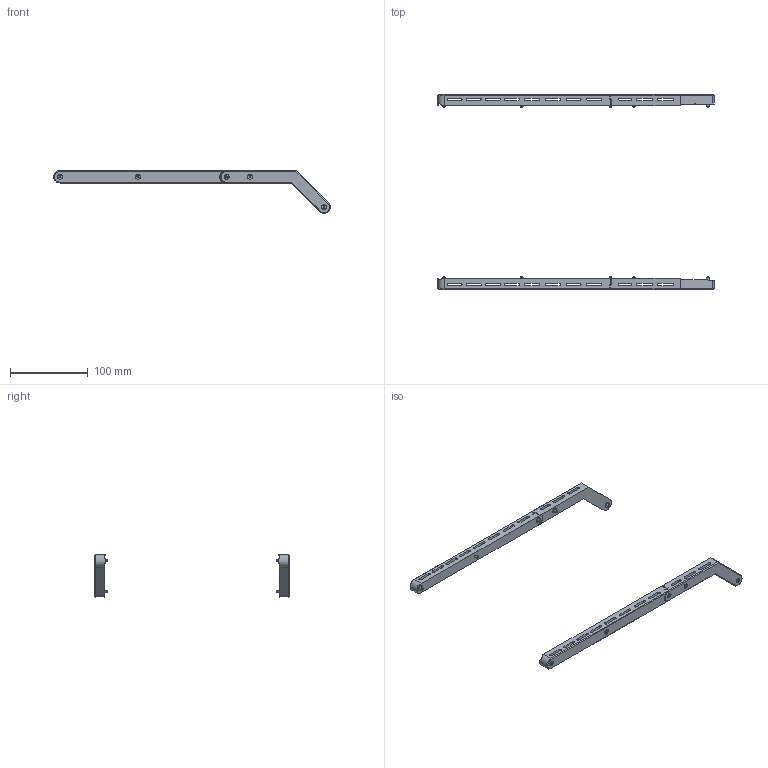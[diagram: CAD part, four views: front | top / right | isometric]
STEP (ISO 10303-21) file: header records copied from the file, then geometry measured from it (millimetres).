
FILE_DESCRIPTION(('FreeCAD Model'),'2;1');
FILE_NAME('Open CASCADE Shape Model','2022-11-07T16:06:21',(''),(''), 'Open CASCADE STEP processor 7.6','FreeCAD','Unknown');
FILE_SCHEMA(('AUTOMOTIVE_DESIGN { 1 0 10303 214 1 1 1 1 }'));
Length unit declared in the file: millimetre
Products named in the file (7): Rails; RailRear (Mirror #1); RailFront (Mirror #2) Short; Screws; M3x16-Screw; RailRear001; RailFront002
Assembly tree (15 placements, depth 3):
  Rails
    RailRear (Mirror #1)
    RailFront (Mirror #2) Short
    Screws
      M3x16-Screw  x10
    RailRear001
    RailFront002
Bounding box: 354.97 x 250 x 54.97 mm (x, y, z)
Volume: 114132.9 mm3; surface area: 60540 mm2
Topology: 14 solids, 14 shells, 380 faces, 914 edges, 574 vertices
Faces by surface type: plane 194, cylinder 108, cone 58, revolution 10, sphere 10
Full cylindrical faces by diameter (mm): 3 x20, 3.3 x12, 6 x10, 7 x8
Entity records: 15212 total; most frequent: CARTESIAN_POINT 3230, DIRECTION 2207, LINE 1198, VECTOR 1198, ORIENTED_EDGE 1160, PCURVE 1160, DEFINITIONAL_REPRESENTATION 1160, EDGE_CURVE 580
